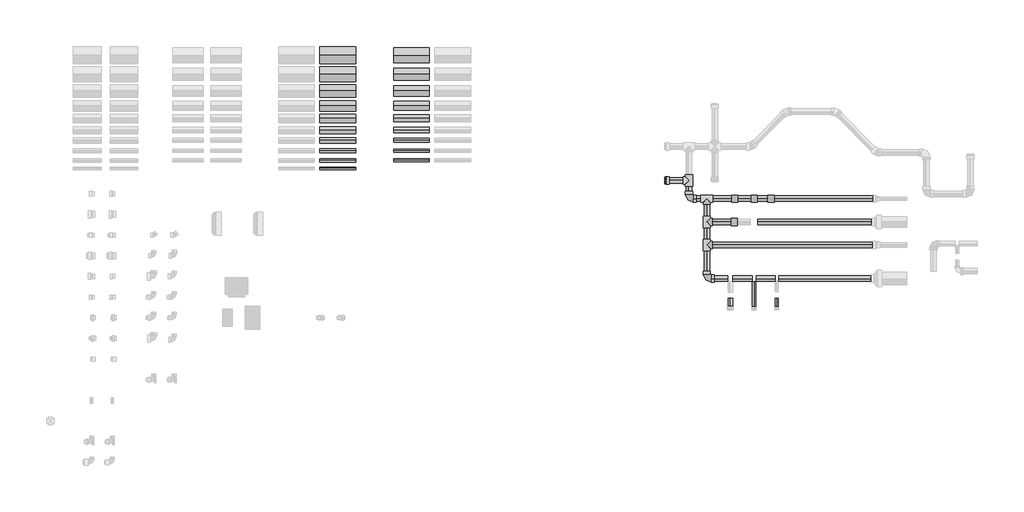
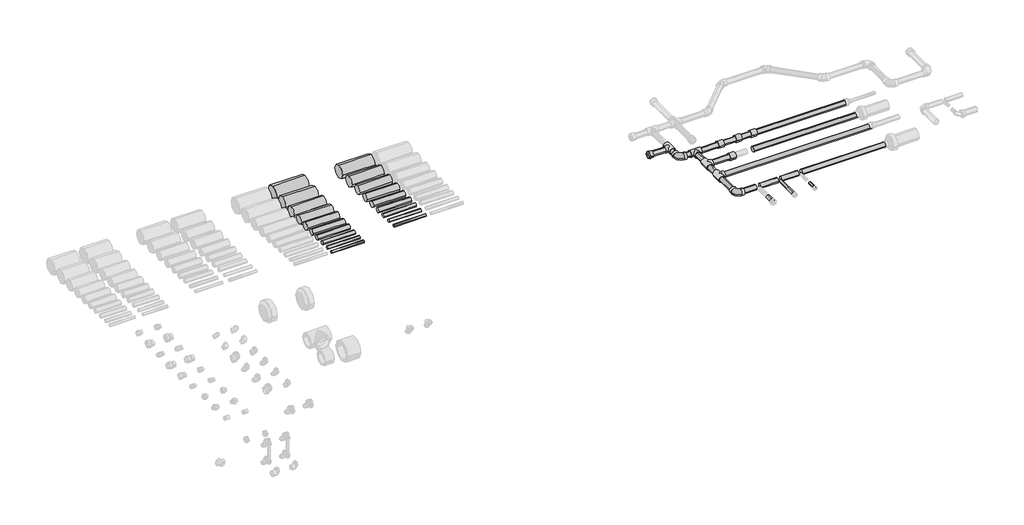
# One storey, part 3 of 4: 39 pipe segments, 11 pipe fittings.
"""IFC4 building model written with IfcOpenShell, lengths in millimetres."""

from ifc_helpers import new_model, si_unit, point, frame, frame_2d, origin, place, context, project, spatial, circle_curve, trimmed, segment, composite_curve, outline, extrude, transform, mapped, element, save
from components import pipe_fitting_ca50f0bb, pipe_fitting_64472920, pipe_fitting_0604c5e5, pipe_fitting_a1e15368

model = new_model("IFC4")

# Units and contexts
model_context = context("Model", 3, world=origin())
ifc_project = project(units=[si_unit("LENGTHUNIT", "METRE", prefix="MILLI")], contexts=[model_context])

# Site, building, storey
site = spatial("IfcSite", under=ifc_project)
building = spatial("IfcBuilding", under=site)
storey = spatial("IfcBuildingStorey", under=building, Name="Уровень 1", Elevation=0.0)

# Pipe fittings
placement = place(None, origin())
pipe_fitting_shape = pipe_fitting_ca50f0bb(model_context)
element("IfcPipeFitting", 1, ObjectType="35_Угольник полипропиленовый 90 : Белый цвет", at=placement, inside=storey, context=model_context, shape_type="MappedRepresentation", body=[
    mapped(pipe_fitting_shape, transform((1872.4011304, 3806.5754741, 0.0), x_axis=(0.0, -1.0, 0.0), y_axis=(1.0, 0.0, 0.0), z_axis=(0.0, 0.0, 1.0))),
])
element("IfcPipeFitting", 2, ObjectType="35_Угольник полипропиленовый 90 : Белый цвет", at=placement, inside=storey, context=model_context, shape_type="MappedRepresentation", body=[
    mapped(pipe_fitting_shape, transform((2002.1128555, 3226.5754741, 0.0), x_axis=(0.0, -1.0, 0.0), y_axis=(1.0, 0.0, 0.0), z_axis=(0.0, 0.0, 1.0))),
])
pipe_fitting_2_shape = pipe_fitting_64472920(model_context)
element("IfcPipeFitting", 3, ObjectType="30_Тройник полипропиленовый : Белый цвет", at=placement, inside=storey, context=model_context, shape_type="MappedRepresentation", body=[
    mapped(pipe_fitting_2_shape, transform((1872.4011304, 3939.0244311, 0.0), x_axis=(0.0, 1.0, 0.0), y_axis=(1.0, 0.0, 0.0), z_axis=(0.0, 0.0, -1.0))),
])
element("IfcPipeFitting", 4, ObjectType="30_Тройник полипропиленовый : Белый цвет", at=placement, inside=storey, context=model_context, shape_type="MappedRepresentation", body=[
    mapped(pipe_fitting_2_shape, transform((2002.1128555, 3806.5754741, 0.0), x_axis=(-1.0, 0.0, 0.0), y_axis=(0.0, 1.0, 0.0), z_axis=(0.0, 0.0, -1.0))),
])
element("IfcPipeFitting", 5, ObjectType="30_Тройник полипропиленовый : Белый цвет", at=placement, inside=storey, context=model_context, shape_type="MappedRepresentation", body=[
    mapped(pipe_fitting_2_shape, transform((2002.1128555, 3637.9359679, 0.0), x_axis=(0.0, 1.0, 0.0), y_axis=(-1.0, 0.0, 0.0), z_axis=(0.0, 0.0, 1.0))),
])
element("IfcPipeFitting", 6, ObjectType="30_Тройник полипропиленовый : Белый цвет", at=placement, inside=storey, context=model_context, shape_type="MappedRepresentation", body=[
    mapped(pipe_fitting_2_shape, transform((2002.1128555, 3471.255721, 0.0), x_axis=(0.0, 1.0, 0.0), y_axis=(-1.0, 0.0, 0.0), z_axis=(0.0, 0.0, 1.0))),
])
pipe_fitting_3_shape = pipe_fitting_0604c5e5(model_context)
element("IfcPipeFitting", 7, ObjectType="18_Муфта полипропиленовая : Белый цвет", at=placement, inside=storey, context=model_context, shape_type="MappedRepresentation", body=[
    mapped(pipe_fitting_3_shape, transform((2204.1128555, 3806.5754741, 0.0), x_axis=(1.0, 0.0, 0.0), y_axis=(0.0, 1.0, 0.0), z_axis=(0.0, 0.0, 1.0))),
])
element("IfcPipeFitting", 8, ObjectType="18_Муфта полипропиленовая : Белый цвет", at=placement, inside=storey, context=model_context, shape_type="MappedRepresentation", body=[
    mapped(pipe_fitting_3_shape, transform((2346.1128555, 3806.5754741, 0.0), x_axis=(1.0, 0.0, 0.0), y_axis=(0.0, 1.0, 0.0), z_axis=(0.0, 0.0, 1.0))),
])
element("IfcPipeFitting", 9, ObjectType="18_Муфта полипропиленовая : Белый цвет", at=placement, inside=storey, context=model_context, shape_type="MappedRepresentation", body=[
    mapped(pipe_fitting_3_shape, transform((2468.1128555, 3806.5754741, 0.0), x_axis=(1.0, 0.0, 0.0), y_axis=(0.0, 1.0, 0.0), z_axis=(0.0, 0.0, 1.0))),
])
element("IfcPipeFitting", 10, ObjectType="18_Муфта полипропиленовая : Белый цвет", at=placement, inside=storey, context=model_context, shape_type="MappedRepresentation", body=[
    mapped(pipe_fitting_3_shape, transform((2201.1128555, 3637.9359679, 0.0), x_axis=(1.0, 0.0, 0.0), y_axis=(0.0, 1.0, 0.0), z_axis=(0.0, 0.0, 1.0))),
])
pipe_fitting_4_shape = pipe_fitting_a1e15368(model_context)
element("IfcPipeFitting", 11, ObjectType="09_Заглушка : Белый цвет", at=placement, inside=storey, context=model_context, shape_type="MappedRepresentation", body=[
    mapped(pipe_fitting_4_shape, transform((1706.0709216, 3939.0244311, 0.0), x_axis=(1.0, 0.0, 0.0), y_axis=(0.0, 1.0, 0.0), z_axis=(0.0, 0.0, 1.0))),
])

# Pipe segments
element("IfcPipeSegment", 12, ObjectType="Полипропиленовые трубы, армированные стекловолокном PN20/SDR7, 4, 2 м_Белый цвет", at=placement, inside=storey, context=model_context, shape_type="SweptSolid", body=[
    extrude(outline(composite_curve([segment(trimmed(circle_curve(frame_2d((4848.4107276, 0.0)), 62.5), [point((4785.9107276, 0.0))], [point((4848.4107276, 62.5))], False, "CARTESIAN"), True, "CONTINUOUS"), segment(trimmed(circle_curve(frame_2d((4848.4107276, 0.0)), 62.5), [point((4848.4107276, 62.5))], [point((4910.9107276, 0.0))], False, "CARTESIAN"), True, "CONTINUOUS"), segment(trimmed(circle_curve(frame_2d((4848.4107276, 0.0)), 62.5), [point((4910.9107276, 0.0))], [point((4848.4107276, -62.5))], False, "CARTESIAN"), True, "CONTINUOUS"), segment(trimmed(circle_curve(frame_2d((4848.4107276, 0.0)), 62.5), [point((4848.4107276, -62.5))], [point((4785.9107276, 0.0))], False, "CARTESIAN"), True, "CONTINUOUS")], self_intersect=False)), frame((-805.4115178, 0.0, 0.0), z_axis=(1.0, 0.0, 0.0), x_axis=(0.0, 1.0, 0.0)), (0.0, 0.0, 1.0), 260.0),
])
element("IfcPipeSegment", 13, ObjectType="Полипропиленовые трубы, армированные стекловолокном PN20/SDR7, 4, 2 м_Белый цвет", at=placement, inside=storey, context=model_context, shape_type="SweptSolid", body=[
    extrude(outline(composite_curve([segment(trimmed(circle_curve(frame_2d((4709.8355043, 0.0)), 55.0), [point((4654.8355043, 0.0))], [point((4709.8355043, 55.0))], False, "CARTESIAN"), True, "CONTINUOUS"), segment(trimmed(circle_curve(frame_2d((4709.8355043, 0.0)), 55.0), [point((4709.8355043, 55.0))], [point((4764.8355043, 0.0))], False, "CARTESIAN"), True, "CONTINUOUS"), segment(trimmed(circle_curve(frame_2d((4709.8355043, 0.0)), 55.0), [point((4764.8355043, 0.0))], [point((4709.8355043, -55.0))], False, "CARTESIAN"), True, "CONTINUOUS"), segment(trimmed(circle_curve(frame_2d((4709.8355043, 0.0)), 55.0), [point((4709.8355043, -55.0))], [point((4654.8355043, 0.0))], False, "CARTESIAN"), True, "CONTINUOUS")], self_intersect=False)), frame((-805.4115178, 0.0, 0.0), z_axis=(1.0, 0.0, 0.0), x_axis=(0.0, 1.0, 0.0)), (0.0, 0.0, 1.0), 260.0),
])
element("IfcPipeSegment", 14, ObjectType="Полипропиленовые трубы, армированные стекловолокном PN20/SDR7, 4, 2 м_Белый цвет", at=placement, inside=storey, context=model_context, shape_type="SweptSolid", body=[
    extrude(outline(composite_curve([segment(trimmed(circle_curve(frame_2d((4588.2982183, 0.0)), 45.0), [point((4543.2982183, 0.0))], [point((4588.2982183, 45.0))], False, "CARTESIAN"), True, "CONTINUOUS"), segment(trimmed(circle_curve(frame_2d((4588.2982183, 0.0)), 45.0), [point((4588.2982183, 45.0))], [point((4633.2982183, 0.0))], False, "CARTESIAN"), True, "CONTINUOUS"), segment(trimmed(circle_curve(frame_2d((4588.2982183, 0.0)), 45.0), [point((4633.2982183, 0.0))], [point((4588.2982183, -45.0))], False, "CARTESIAN"), True, "CONTINUOUS"), segment(trimmed(circle_curve(frame_2d((4588.2982183, 0.0)), 45.0), [point((4588.2982183, -45.0))], [point((4543.2982183, 0.0))], False, "CARTESIAN"), True, "CONTINUOUS")], self_intersect=False)), frame((-805.4115178, 0.0, 0.0), z_axis=(1.0, 0.0, 0.0), x_axis=(0.0, 1.0, 0.0)), (0.0, 0.0, 1.0), 260.0),
])
element("IfcPipeSegment", 15, ObjectType="Полипропиленовые трубы, армированные стекловолокном PN20/SDR7, 4, 2 м_Белый цвет", at=placement, inside=storey, context=model_context, shape_type="SweptSolid", body=[
    extrude(outline(composite_curve([segment(trimmed(circle_curve(frame_2d((4480.6238499, 0.0)), 37.5), [point((4443.1238499, 0.0))], [point((4480.6238499, 37.5))], False, "CARTESIAN"), True, "CONTINUOUS"), segment(trimmed(circle_curve(frame_2d((4480.6238499, 0.0)), 37.5), [point((4480.6238499, 37.5))], [point((4518.1238499, 0.0))], False, "CARTESIAN"), True, "CONTINUOUS"), segment(trimmed(circle_curve(frame_2d((4480.6238499, 0.0)), 37.5), [point((4518.1238499, 0.0))], [point((4480.6238499, -37.5))], False, "CARTESIAN"), True, "CONTINUOUS"), segment(trimmed(circle_curve(frame_2d((4480.6238499, 0.0)), 37.5), [point((4480.6238499, -37.5))], [point((4443.1238499, 0.0))], False, "CARTESIAN"), True, "CONTINUOUS")], self_intersect=False)), frame((-805.4115178, 0.0, 0.0), z_axis=(1.0, 0.0, 0.0), x_axis=(0.0, 1.0, 0.0)), (0.0, 0.0, 1.0), 260.0),
])
element("IfcPipeSegment", 16, ObjectType="Полипропиленовые трубы, армированные стекловолокном PN20/SDR7, 4, 2 м_Белый цвет", at=placement, inside=storey, context=model_context, shape_type="SweptSolid", body=[
    extrude(outline(composite_curve([segment(trimmed(circle_curve(frame_2d((4389.5013485, 0.0)), 31.5), [point((4358.0013485, 0.0))], [point((4389.5013485, 31.5))], False, "CARTESIAN"), True, "CONTINUOUS"), segment(trimmed(circle_curve(frame_2d((4389.5013485, 0.0)), 31.5), [point((4389.5013485, 31.5))], [point((4421.0013485, 0.0))], False, "CARTESIAN"), True, "CONTINUOUS"), segment(trimmed(circle_curve(frame_2d((4389.5013485, 0.0)), 31.5), [point((4421.0013485, 0.0))], [point((4389.5013485, -31.5))], False, "CARTESIAN"), True, "CONTINUOUS"), segment(trimmed(circle_curve(frame_2d((4389.5013485, 0.0)), 31.5), [point((4389.5013485, -31.5))], [point((4358.0013485, 0.0))], False, "CARTESIAN"), True, "CONTINUOUS")], self_intersect=False)), frame((-805.4115178, 0.0, 0.0), z_axis=(1.0, 0.0, 0.0), x_axis=(0.0, 1.0, 0.0)), (0.0, 0.0, 1.0), 260.0),
])
element("IfcPipeSegment", 17, ObjectType="Полипропиленовые трубы, армированные стекловолокном PN20/SDR7, 4, 2 м_Белый цвет", at=placement, inside=storey, context=model_context, shape_type="SweptSolid", body=[
    extrude(outline(composite_curve([segment(trimmed(circle_curve(frame_2d((4303.8771946, 0.0)), 25.0), [point((4278.8771946, 0.0))], [point((4303.8771946, 25.0))], False, "CARTESIAN"), True, "CONTINUOUS"), segment(trimmed(circle_curve(frame_2d((4303.8771946, 0.0)), 25.0), [point((4303.8771946, 25.0))], [point((4328.8771946, 0.0))], False, "CARTESIAN"), True, "CONTINUOUS"), segment(trimmed(circle_curve(frame_2d((4303.8771946, 0.0)), 25.0), [point((4328.8771946, 0.0))], [point((4303.8771946, -25.0))], False, "CARTESIAN"), True, "CONTINUOUS"), segment(trimmed(circle_curve(frame_2d((4303.8771946, 0.0)), 25.0), [point((4303.8771946, -25.0))], [point((4278.8771946, 0.0))], False, "CARTESIAN"), True, "CONTINUOUS")], self_intersect=False)), frame((-805.4115178, 0.0, 0.0), z_axis=(1.0, 0.0, 0.0), x_axis=(0.0, 1.0, 0.0)), (0.0, 0.0, 1.0), 260.0),
])
element("IfcPipeSegment", 18, ObjectType="Полипропиленовые трубы, армированные стекловолокном PN20/SDR7, 4, 2 м_Белый цвет", at=placement, inside=storey, context=model_context, shape_type="SweptSolid", body=[
    extrude(outline(composite_curve([segment(trimmed(circle_curve(frame_2d((4230.5606883, 0.0)), 20.0), [point((4210.5606883, 0.0))], [point((4230.5606883, 20.0))], False, "CARTESIAN"), True, "CONTINUOUS"), segment(trimmed(circle_curve(frame_2d((4230.5606883, 0.0)), 20.0), [point((4230.5606883, 20.0))], [point((4250.5606883, 0.0))], False, "CARTESIAN"), True, "CONTINUOUS"), segment(trimmed(circle_curve(frame_2d((4230.5606883, 0.0)), 20.0), [point((4250.5606883, 0.0))], [point((4230.5606883, -20.0))], False, "CARTESIAN"), True, "CONTINUOUS"), segment(trimmed(circle_curve(frame_2d((4230.5606883, 0.0)), 20.0), [point((4230.5606883, -20.0))], [point((4210.5606883, 0.0))], False, "CARTESIAN"), True, "CONTINUOUS")], self_intersect=False)), frame((-805.4115178, 0.0, 0.0), z_axis=(1.0, 0.0, 0.0), x_axis=(0.0, 1.0, 0.0)), (0.0, 0.0, 1.0), 260.0),
])
element("IfcPipeSegment", 19, ObjectType="Полипропиленовые трубы, армированные стекловолокном PN20/SDR7, 4, 2 м_Белый цвет", at=placement, inside=storey, context=model_context, shape_type="SweptSolid", body=[
    extrude(outline(composite_curve([segment(trimmed(circle_curve(frame_2d((4154.7986605, 0.0)), 16.0), [point((4138.7986605, 0.0))], [point((4154.7986605, 16.0))], False, "CARTESIAN"), True, "CONTINUOUS"), segment(trimmed(circle_curve(frame_2d((4154.7986605, 0.0)), 16.0), [point((4154.7986605, 16.0))], [point((4170.7986605, 0.0))], False, "CARTESIAN"), True, "CONTINUOUS"), segment(trimmed(circle_curve(frame_2d((4154.7986605, 0.0)), 16.0), [point((4170.7986605, 0.0))], [point((4154.7986605, -16.0))], False, "CARTESIAN"), True, "CONTINUOUS"), segment(trimmed(circle_curve(frame_2d((4154.7986605, 0.0)), 16.0), [point((4154.7986605, -16.0))], [point((4138.7986605, 0.0))], False, "CARTESIAN"), True, "CONTINUOUS")], self_intersect=False)), frame((-805.4115178, 0.0, 0.0), z_axis=(1.0, 0.0, 0.0), x_axis=(0.0, 1.0, 0.0)), (0.0, 0.0, 1.0), 260.0),
])
element("IfcPipeSegment", 20, ObjectType="Полипропиленовые трубы, армированные стекловолокном PN20/SDR7, 4, 2 м_Белый цвет", at=placement, inside=storey, context=model_context, shape_type="SweptSolid", body=[
    extrude(outline(composite_curve([segment(trimmed(circle_curve(frame_2d((4085.0159711, 0.0)), 12.5), [point((4072.5159711, 0.0))], [point((4085.0159711, 12.5))], False, "CARTESIAN"), True, "CONTINUOUS"), segment(trimmed(circle_curve(frame_2d((4085.0159711, 0.0)), 12.5), [point((4085.0159711, 12.5))], [point((4097.5159711, 0.0))], False, "CARTESIAN"), True, "CONTINUOUS"), segment(trimmed(circle_curve(frame_2d((4085.0159711, 0.0)), 12.5), [point((4097.5159711, 0.0))], [point((4085.0159711, -12.5))], False, "CARTESIAN"), True, "CONTINUOUS"), segment(trimmed(circle_curve(frame_2d((4085.0159711, 0.0)), 12.5), [point((4085.0159711, -12.5))], [point((4072.5159711, 0.0))], False, "CARTESIAN"), True, "CONTINUOUS")], self_intersect=False)), frame((-805.4115178, 0.0, 0.0), z_axis=(1.0, 0.0, 0.0), x_axis=(0.0, 1.0, 0.0)), (0.0, 0.0, 1.0), 260.0),
])
element("IfcPipeSegment", 21, ObjectType="Полипропиленовые трубы, армированные стекловолокном PN20/SDR7, 4, 2 м_Белый цвет", at=placement, inside=storey, context=model_context, shape_type="SweptSolid", body=[
    extrude(outline(composite_curve([segment(trimmed(circle_curve(frame_2d((4025.8339977, 0.0)), 10.0), [point((4015.8339977, 0.0))], [point((4025.8339977, 10.0))], False, "CARTESIAN"), True, "CONTINUOUS"), segment(trimmed(circle_curve(frame_2d((4025.8339977, 0.0)), 10.0), [point((4025.8339977, 10.0))], [point((4035.8339977, 0.0))], False, "CARTESIAN"), True, "CONTINUOUS"), segment(trimmed(circle_curve(frame_2d((4025.8339977, 0.0)), 10.0), [point((4035.8339977, 0.0))], [point((4025.8339977, -10.0))], False, "CARTESIAN"), True, "CONTINUOUS"), segment(trimmed(circle_curve(frame_2d((4025.8339977, 0.0)), 10.0), [point((4025.8339977, -10.0))], [point((4015.8339977, 0.0))], False, "CARTESIAN"), True, "CONTINUOUS")], self_intersect=False)), frame((-805.4115178, 0.0, 0.0), z_axis=(1.0, 0.0, 0.0), x_axis=(0.0, 1.0, 0.0)), (0.0, 0.0, 1.0), 260.0),
])
element("IfcPipeSegment", 22, ObjectType="Полипропиленовые трубы, армированные стекловолокном PN25/SDR6, 2 м_Серый цвет", at=placement, inside=storey, context=model_context, shape_type="SweptSolid", body=[
    extrude(outline(composite_curve([segment(trimmed(circle_curve(frame_2d((4848.4107276, 0.0)), 55.0), [point((4793.4107276, 0.0))], [point((4848.4107276, 55.0))], False, "CARTESIAN"), True, "CONTINUOUS"), segment(trimmed(circle_curve(frame_2d((4848.4107276, 0.0)), 55.0), [point((4848.4107276, 55.0))], [point((4903.4107276, 0.0))], False, "CARTESIAN"), True, "CONTINUOUS"), segment(trimmed(circle_curve(frame_2d((4848.4107276, 0.0)), 55.0), [point((4903.4107276, 0.0))], [point((4848.4107276, -55.0))], False, "CARTESIAN"), True, "CONTINUOUS"), segment(trimmed(circle_curve(frame_2d((4848.4107276, 0.0)), 55.0), [point((4848.4107276, -55.0))], [point((4793.4107276, 0.0))], False, "CARTESIAN"), True, "CONTINUOUS")], self_intersect=False)), frame((-270.5750243, 0.0, 0.0), z_axis=(1.0, 0.0, 0.0), x_axis=(0.0, 1.0, 0.0)), (0.0, 0.0, 1.0), 260.0),
])
element("IfcPipeSegment", 23, ObjectType="Полипропиленовые трубы, армированные стекловолокном PN25/SDR6, 2 м_Серый цвет", at=placement, inside=storey, context=model_context, shape_type="SweptSolid", body=[
    extrude(outline(composite_curve([segment(trimmed(circle_curve(frame_2d((4709.8355043, 0.0)), 45.0), [point((4664.8355043, 0.0))], [point((4709.8355043, 45.0))], False, "CARTESIAN"), True, "CONTINUOUS"), segment(trimmed(circle_curve(frame_2d((4709.8355043, 0.0)), 45.0), [point((4709.8355043, 45.0))], [point((4754.8355043, 0.0))], False, "CARTESIAN"), True, "CONTINUOUS"), segment(trimmed(circle_curve(frame_2d((4709.8355043, 0.0)), 45.0), [point((4754.8355043, 0.0))], [point((4709.8355043, -45.0))], False, "CARTESIAN"), True, "CONTINUOUS"), segment(trimmed(circle_curve(frame_2d((4709.8355043, 0.0)), 45.0), [point((4709.8355043, -45.0))], [point((4664.8355043, 0.0))], False, "CARTESIAN"), True, "CONTINUOUS")], self_intersect=False)), frame((-270.5750243, 0.0, 0.0), z_axis=(1.0, 0.0, 0.0), x_axis=(0.0, 1.0, 0.0)), (0.0, 0.0, 1.0), 260.0),
])
element("IfcPipeSegment", 24, ObjectType="Полипропиленовые трубы, армированные стекловолокном PN25/SDR6, 2 м_Серый цвет", at=placement, inside=storey, context=model_context, shape_type="SweptSolid", body=[
    extrude(outline(composite_curve([segment(trimmed(circle_curve(frame_2d((4588.2982183, 0.0)), 37.5), [point((4550.7982183, 0.0))], [point((4588.2982183, 37.5))], False, "CARTESIAN"), True, "CONTINUOUS"), segment(trimmed(circle_curve(frame_2d((4588.2982183, 0.0)), 37.5), [point((4588.2982183, 37.5))], [point((4625.7982183, 0.0))], False, "CARTESIAN"), True, "CONTINUOUS"), segment(trimmed(circle_curve(frame_2d((4588.2982183, 0.0)), 37.5), [point((4625.7982183, 0.0))], [point((4588.2982183, -37.5))], False, "CARTESIAN"), True, "CONTINUOUS"), segment(trimmed(circle_curve(frame_2d((4588.2982183, 0.0)), 37.5), [point((4588.2982183, -37.5))], [point((4550.7982183, 0.0))], False, "CARTESIAN"), True, "CONTINUOUS")], self_intersect=False)), frame((-270.5750243, 0.0, 0.0), z_axis=(1.0, 0.0, 0.0), x_axis=(0.0, 1.0, 0.0)), (0.0, 0.0, 1.0), 260.0),
])
element("IfcPipeSegment", 25, ObjectType="Полипропиленовые трубы, армированные стекловолокном PN25/SDR6, 2 м_Серый цвет", at=placement, inside=storey, context=model_context, shape_type="SweptSolid", body=[
    extrude(outline(composite_curve([segment(trimmed(circle_curve(frame_2d((4480.6238499, 0.0)), 31.5), [point((4449.1238499, 0.0))], [point((4480.6238499, 31.5))], False, "CARTESIAN"), True, "CONTINUOUS"), segment(trimmed(circle_curve(frame_2d((4480.6238499, 0.0)), 31.5), [point((4480.6238499, 31.5))], [point((4512.1238499, 0.0))], False, "CARTESIAN"), True, "CONTINUOUS"), segment(trimmed(circle_curve(frame_2d((4480.6238499, 0.0)), 31.5), [point((4512.1238499, 0.0))], [point((4480.6238499, -31.5))], False, "CARTESIAN"), True, "CONTINUOUS"), segment(trimmed(circle_curve(frame_2d((4480.6238499, 0.0)), 31.5), [point((4480.6238499, -31.5))], [point((4449.1238499, 0.0))], False, "CARTESIAN"), True, "CONTINUOUS")], self_intersect=False)), frame((-270.5750243, 0.0, 0.0), z_axis=(1.0, 0.0, 0.0), x_axis=(0.0, 1.0, 0.0)), (0.0, 0.0, 1.0), 260.0),
])
element("IfcPipeSegment", 26, ObjectType="Полипропиленовые трубы, армированные стекловолокном PN25/SDR6, 2 м_Серый цвет", at=placement, inside=storey, context=model_context, shape_type="SweptSolid", body=[
    extrude(outline(composite_curve([segment(trimmed(circle_curve(frame_2d((4389.5013485, 0.0)), 25.0), [point((4364.5013485, 0.0))], [point((4389.5013485, 25.0))], False, "CARTESIAN"), True, "CONTINUOUS"), segment(trimmed(circle_curve(frame_2d((4389.5013485, 0.0)), 25.0), [point((4389.5013485, 25.0))], [point((4414.5013485, 0.0))], False, "CARTESIAN"), True, "CONTINUOUS"), segment(trimmed(circle_curve(frame_2d((4389.5013485, 0.0)), 25.0), [point((4414.5013485, 0.0))], [point((4389.5013485, -25.0))], False, "CARTESIAN"), True, "CONTINUOUS"), segment(trimmed(circle_curve(frame_2d((4389.5013485, 0.0)), 25.0), [point((4389.5013485, -25.0))], [point((4364.5013485, 0.0))], False, "CARTESIAN"), True, "CONTINUOUS")], self_intersect=False)), frame((-270.5750243, 0.0, 0.0), z_axis=(1.0, 0.0, 0.0), x_axis=(0.0, 1.0, 0.0)), (0.0, 0.0, 1.0), 260.0),
])
element("IfcPipeSegment", 27, ObjectType="Полипропиленовые трубы, армированные стекловолокном PN25/SDR6, 2 м_Серый цвет", at=placement, inside=storey, context=model_context, shape_type="SweptSolid", body=[
    extrude(outline(composite_curve([segment(trimmed(circle_curve(frame_2d((4303.8771946, 0.0)), 20.0), [point((4283.8771946, 0.0))], [point((4303.8771946, 20.0))], False, "CARTESIAN"), True, "CONTINUOUS"), segment(trimmed(circle_curve(frame_2d((4303.8771946, 0.0)), 20.0), [point((4303.8771946, 20.0))], [point((4323.8771946, 0.0))], False, "CARTESIAN"), True, "CONTINUOUS"), segment(trimmed(circle_curve(frame_2d((4303.8771946, 0.0)), 20.0), [point((4323.8771946, 0.0))], [point((4303.8771946, -20.0))], False, "CARTESIAN"), True, "CONTINUOUS"), segment(trimmed(circle_curve(frame_2d((4303.8771946, 0.0)), 20.0), [point((4303.8771946, -20.0))], [point((4283.8771946, 0.0))], False, "CARTESIAN"), True, "CONTINUOUS")], self_intersect=False)), frame((-270.5750243, 0.0, 0.0), z_axis=(1.0, 0.0, 0.0), x_axis=(0.0, 1.0, 0.0)), (0.0, 0.0, 1.0), 260.0),
])
element("IfcPipeSegment", 28, ObjectType="Полипропиленовые трубы, армированные стекловолокном PN25/SDR6, 2 м_Серый цвет", at=placement, inside=storey, context=model_context, shape_type="SweptSolid", body=[
    extrude(outline(composite_curve([segment(trimmed(circle_curve(frame_2d((4230.5606883, 0.0)), 16.0), [point((4214.5606883, 0.0))], [point((4230.5606883, 16.0))], False, "CARTESIAN"), True, "CONTINUOUS"), segment(trimmed(circle_curve(frame_2d((4230.5606883, 0.0)), 16.0), [point((4230.5606883, 16.0))], [point((4246.5606883, 0.0))], False, "CARTESIAN"), True, "CONTINUOUS"), segment(trimmed(circle_curve(frame_2d((4230.5606883, 0.0)), 16.0), [point((4246.5606883, 0.0))], [point((4230.5606883, -16.0))], False, "CARTESIAN"), True, "CONTINUOUS"), segment(trimmed(circle_curve(frame_2d((4230.5606883, 0.0)), 16.0), [point((4230.5606883, -16.0))], [point((4214.5606883, 0.0))], False, "CARTESIAN"), True, "CONTINUOUS")], self_intersect=False)), frame((-270.5750243, 0.0, 0.0), z_axis=(1.0, 0.0, 0.0), x_axis=(0.0, 1.0, 0.0)), (0.0, 0.0, 1.0), 260.0),
])
element("IfcPipeSegment", 29, ObjectType="Полипропиленовые трубы, армированные стекловолокном PN25/SDR6, 2 м_Серый цвет", at=placement, inside=storey, context=model_context, shape_type="SweptSolid", body=[
    extrude(outline(composite_curve([segment(trimmed(circle_curve(frame_2d((4154.7986605, 0.0)), 12.5), [point((4142.2986605, 0.0))], [point((4154.7986605, 12.5))], False, "CARTESIAN"), True, "CONTINUOUS"), segment(trimmed(circle_curve(frame_2d((4154.7986605, 0.0)), 12.5), [point((4154.7986605, 12.5))], [point((4167.2986605, 0.0))], False, "CARTESIAN"), True, "CONTINUOUS"), segment(trimmed(circle_curve(frame_2d((4154.7986605, 0.0)), 12.5), [point((4167.2986605, 0.0))], [point((4154.7986605, -12.5))], False, "CARTESIAN"), True, "CONTINUOUS"), segment(trimmed(circle_curve(frame_2d((4154.7986605, 0.0)), 12.5), [point((4154.7986605, -12.5))], [point((4142.2986605, 0.0))], False, "CARTESIAN"), True, "CONTINUOUS")], self_intersect=False)), frame((-270.5750243, 0.0, 0.0), z_axis=(1.0, 0.0, 0.0), x_axis=(0.0, 1.0, 0.0)), (0.0, 0.0, 1.0), 260.0),
])
element("IfcPipeSegment", 30, ObjectType="Полипропиленовые трубы, армированные стекловолокном PN25/SDR6, 2 м_Серый цвет", at=placement, inside=storey, context=model_context, shape_type="SweptSolid", body=[
    extrude(outline(composite_curve([segment(trimmed(circle_curve(frame_2d((4085.0159711, 0.0)), 10.0), [point((4075.0159711, 0.0))], [point((4085.0159711, 10.0))], False, "CARTESIAN"), True, "CONTINUOUS"), segment(trimmed(circle_curve(frame_2d((4085.0159711, 0.0)), 10.0), [point((4085.0159711, 10.0))], [point((4095.0159711, 0.0))], False, "CARTESIAN"), True, "CONTINUOUS"), segment(trimmed(circle_curve(frame_2d((4085.0159711, 0.0)), 10.0), [point((4095.0159711, 0.0))], [point((4085.0159711, -10.0))], False, "CARTESIAN"), True, "CONTINUOUS"), segment(trimmed(circle_curve(frame_2d((4085.0159711, 0.0)), 10.0), [point((4085.0159711, -10.0))], [point((4075.0159711, 0.0))], False, "CARTESIAN"), True, "CONTINUOUS")], self_intersect=False)), frame((-270.5750243, 0.0, 0.0), z_axis=(1.0, 0.0, 0.0), x_axis=(0.0, 1.0, 0.0)), (0.0, 0.0, 1.0), 260.0),
])
element("IfcPipeSegment", 31, ObjectType="PN10/SDR11, 4 м_Белый цвет", at=placement, inside=storey, context=model_context, shape_type="SweptSolid", body=[
    extrude(outline(composite_curve([segment(trimmed(circle_curve(frame_2d((0.0, 1872.4011304)), 20.0), [point((0.0, 1852.4011304))], [point((-20.0, 1872.4011304))], False, "CARTESIAN"), True, "CONTINUOUS"), segment(trimmed(circle_curve(frame_2d((0.0, 1872.4011304)), 20.0), [point((-20.0, 1872.4011304))], [point((0.0, 1892.4011304))], False, "CARTESIAN"), True, "CONTINUOUS"), segment(trimmed(circle_curve(frame_2d((0.0, 1872.4011304)), 20.0), [point((0.0, 1892.4011304))], [point((20.0, 1872.4011304))], False, "CARTESIAN"), True, "CONTINUOUS"), segment(trimmed(circle_curve(frame_2d((0.0, 1872.4011304)), 20.0), [point((20.0, 1872.4011304))], [point((0.0, 1852.4011304))], False, "CARTESIAN"), True, "CONTINUOUS")], self_intersect=False)), frame((0.0, 3839.4254741, 0.0), z_axis=(0.0, 1.0, 0.0), x_axis=(0.0, 0.0, 1.0)), (0.0, 0.0, 1.0), 77.598957),
])
element("IfcPipeSegment", 32, ObjectType="PN10/SDR11, 4 м_Белый цвет", at=placement, inside=storey, context=model_context, shape_type="SweptSolid", body=[
    extrude(outline(composite_curve([segment(trimmed(circle_curve(frame_2d((3939.0244311, 0.0)), 20.0), [point((3959.0244311, 0.0))], [point((3939.0244311, -20.0))], False, "CARTESIAN"), True, "CONTINUOUS"), segment(trimmed(circle_curve(frame_2d((3939.0244311, 0.0)), 20.0), [point((3939.0244311, -20.0))], [point((3919.0244311, 0.0))], False, "CARTESIAN"), True, "CONTINUOUS"), segment(trimmed(circle_curve(frame_2d((3939.0244311, 0.0)), 20.0), [point((3919.0244311, 0.0))], [point((3939.0244311, 20.0))], False, "CARTESIAN"), True, "CONTINUOUS"), segment(trimmed(circle_curve(frame_2d((3939.0244311, 0.0)), 20.0), [point((3939.0244311, 20.0))], [point((3959.0244311, 0.0))], False, "CARTESIAN"), True, "CONTINUOUS")], self_intersect=False)), frame((1706.0709216, 0.0, 0.0), z_axis=(1.0, 0.0, 0.0), x_axis=(0.0, 1.0, 0.0)), (0.0, 0.0, 1.0), 147.3302087),
])
element("IfcPipeSegment", 33, ObjectType="PN10/SDR11, 4 м_Белый цвет", at=placement, inside=storey, context=model_context, shape_type="SweptSolid", body=[
    extrude(outline(composite_curve([segment(trimmed(circle_curve(frame_2d((3806.5754741, 0.0)), 20.0), [point((3786.5754741, 0.0))], [point((3806.5754741, 20.0))], False, "CARTESIAN"), True, "CONTINUOUS"), segment(trimmed(circle_curve(frame_2d((3806.5754741, 0.0)), 20.0), [point((3806.5754741, 20.0))], [point((3826.5754741, 0.0))], False, "CARTESIAN"), True, "CONTINUOUS"), segment(trimmed(circle_curve(frame_2d((3806.5754741, 0.0)), 20.0), [point((3826.5754741, 0.0))], [point((3806.5754741, -20.0))], False, "CARTESIAN"), True, "CONTINUOUS"), segment(trimmed(circle_curve(frame_2d((3806.5754741, 0.0)), 20.0), [point((3806.5754741, -20.0))], [point((3786.5754741, 0.0))], False, "CARTESIAN"), True, "CONTINUOUS")], self_intersect=False)), frame((2470.1128555, 0.0, 0.0), z_axis=(1.0, 0.0, 0.0), x_axis=(0.0, 1.0, 0.0)), (0.0, 0.0, 1.0), 759.2882749),
])
element("IfcPipeSegment", 34, ObjectType="PN10/SDR11, 4 м_Белый цвет", at=placement, inside=storey, context=model_context, shape_type="SweptSolid", body=[
    extrude(outline(composite_curve([segment(trimmed(circle_curve(frame_2d((3806.5754741, 0.0)), 20.0), [point((3786.5754741, 0.0))], [point((3806.5754741, 20.0))], False, "CARTESIAN"), True, "CONTINUOUS"), segment(trimmed(circle_curve(frame_2d((3806.5754741, 0.0)), 20.0), [point((3806.5754741, 20.0))], [point((3826.5754741, 0.0))], False, "CARTESIAN"), True, "CONTINUOUS"), segment(trimmed(circle_curve(frame_2d((3806.5754741, 0.0)), 20.0), [point((3826.5754741, 0.0))], [point((3806.5754741, -20.0))], False, "CARTESIAN"), True, "CONTINUOUS"), segment(trimmed(circle_curve(frame_2d((3806.5754741, 0.0)), 20.0), [point((3806.5754741, -20.0))], [point((3786.5754741, 0.0))], False, "CARTESIAN"), True, "CONTINUOUS")], self_intersect=False)), frame((1905.2511304, 0.0, 0.0), z_axis=(1.0, 0.0, 0.0), x_axis=(0.0, 1.0, 0.0)), (0.0, 0.0, 1.0), 74.8617251),
])
element("IfcPipeSegment", 35, ObjectType="PN10/SDR11, 4 м_Белый цвет", at=placement, inside=storey, context=model_context, shape_type="SweptSolid", body=[
    extrude(outline(composite_curve([segment(trimmed(circle_curve(frame_2d((3637.9359679, 0.0)), 20.0), [point((3617.9359679, 0.0))], [point((3637.9359679, 20.0))], False, "CARTESIAN"), True, "CONTINUOUS"), segment(trimmed(circle_curve(frame_2d((3637.9359679, 0.0)), 20.0), [point((3637.9359679, 20.0))], [point((3657.9359679, 0.0))], False, "CARTESIAN"), True, "CONTINUOUS"), segment(trimmed(circle_curve(frame_2d((3637.9359679, 0.0)), 20.0), [point((3657.9359679, 0.0))], [point((3637.9359679, -20.0))], False, "CARTESIAN"), True, "CONTINUOUS"), segment(trimmed(circle_curve(frame_2d((3637.9359679, 0.0)), 20.0), [point((3637.9359679, -20.0))], [point((3617.9359679, 0.0))], False, "CARTESIAN"), True, "CONTINUOUS")], self_intersect=False)), frame((2370.3628555, 0.0, 0.0), z_axis=(1.0, 0.0, 0.0), x_axis=(0.0, 1.0, 0.0)), (0.0, 0.0, 1.0), 848.0382749),
])
element("IfcPipeSegment", 36, ObjectType="PN10/SDR11, 4 м_Белый цвет", at=placement, inside=storey, context=model_context, shape_type="SweptSolid", body=[
    extrude(outline(composite_curve([segment(trimmed(circle_curve(frame_2d((0.0, 2002.1128555)), 20.0), [point((0.0, 1982.1128555))], [point((-20.0, 2002.1128555))], False, "CARTESIAN"), True, "CONTINUOUS"), segment(trimmed(circle_curve(frame_2d((0.0, 2002.1128555)), 20.0), [point((-20.0, 2002.1128555))], [point((0.0, 2022.1128555))], False, "CARTESIAN"), True, "CONTINUOUS"), segment(trimmed(circle_curve(frame_2d((0.0, 2002.1128555)), 20.0), [point((0.0, 2022.1128555))], [point((20.0, 2002.1128555))], False, "CARTESIAN"), True, "CONTINUOUS"), segment(trimmed(circle_curve(frame_2d((0.0, 2002.1128555)), 20.0), [point((20.0, 2002.1128555))], [point((0.0, 1982.1128555))], False, "CARTESIAN"), True, "CONTINUOUS")], self_intersect=False)), frame((0.0, 3659.9359679, 0.0), z_axis=(0.0, 1.0, 0.0), x_axis=(0.0, 0.0, 1.0)), (0.0, 0.0, 1.0), 127.6395062),
])
element("IfcPipeSegment", 37, ObjectType="PN10/SDR11, 4 м_Белый цвет", at=placement, inside=storey, context=model_context, shape_type="SweptSolid", body=[
    extrude(outline(composite_curve([segment(trimmed(circle_curve(frame_2d((3471.255721, 0.0)), 20.0), [point((3451.255721, 0.0))], [point((3471.255721, 20.0))], False, "CARTESIAN"), True, "CONTINUOUS"), segment(trimmed(circle_curve(frame_2d((3471.255721, 0.0)), 20.0), [point((3471.255721, 20.0))], [point((3491.255721, 0.0))], False, "CARTESIAN"), True, "CONTINUOUS"), segment(trimmed(circle_curve(frame_2d((3471.255721, 0.0)), 20.0), [point((3491.255721, 0.0))], [point((3471.255721, -20.0))], False, "CARTESIAN"), True, "CONTINUOUS"), segment(trimmed(circle_curve(frame_2d((3471.255721, 0.0)), 20.0), [point((3471.255721, -20.0))], [point((3451.255721, 0.0))], False, "CARTESIAN"), True, "CONTINUOUS")], self_intersect=False)), frame((2021.1128555, 0.0, 0.0), z_axis=(1.0, 0.0, 0.0), x_axis=(0.0, 1.0, 0.0)), (0.0, 0.0, 1.0), 1207.2882749),
])
element("IfcPipeSegment", 38, ObjectType="PN10/SDR11, 4 м_Белый цвет", at=placement, inside=storey, context=model_context, shape_type="SweptSolid", body=[
    extrude(outline(composite_curve([segment(trimmed(circle_curve(frame_2d((0.0, 2002.1128555)), 20.0), [point((0.0, 1982.1128555))], [point((-20.0, 2002.1128555))], False, "CARTESIAN"), True, "CONTINUOUS"), segment(trimmed(circle_curve(frame_2d((0.0, 2002.1128555)), 20.0), [point((-20.0, 2002.1128555))], [point((0.0, 2022.1128555))], False, "CARTESIAN"), True, "CONTINUOUS"), segment(trimmed(circle_curve(frame_2d((0.0, 2002.1128555)), 20.0), [point((0.0, 2022.1128555))], [point((20.0, 2002.1128555))], False, "CARTESIAN"), True, "CONTINUOUS"), segment(trimmed(circle_curve(frame_2d((0.0, 2002.1128555)), 20.0), [point((20.0, 2002.1128555))], [point((0.0, 1982.1128555))], False, "CARTESIAN"), True, "CONTINUOUS")], self_intersect=False)), frame((0.0, 3493.255721, 0.0), z_axis=(0.0, 1.0, 0.0), x_axis=(0.0, 0.0, 1.0)), (0.0, 0.0, 1.0), 122.6802469),
])
element("IfcPipeSegment", 39, ObjectType="PN10/SDR11, 4 м_Белый цвет", at=placement, inside=storey, context=model_context, shape_type="SweptSolid", body=[
    extrude(outline(composite_curve([segment(trimmed(circle_curve(frame_2d((0.0, 2002.1128555)), 20.0), [point((0.0, 1982.1128555))], [point((-20.0, 2002.1128555))], False, "CARTESIAN"), True, "CONTINUOUS"), segment(trimmed(circle_curve(frame_2d((0.0, 2002.1128555)), 20.0), [point((-20.0, 2002.1128555))], [point((0.0, 2022.1128555))], False, "CARTESIAN"), True, "CONTINUOUS"), segment(trimmed(circle_curve(frame_2d((0.0, 2002.1128555)), 20.0), [point((0.0, 2022.1128555))], [point((20.0, 2002.1128555))], False, "CARTESIAN"), True, "CONTINUOUS"), segment(trimmed(circle_curve(frame_2d((0.0, 2002.1128555)), 20.0), [point((20.0, 2002.1128555))], [point((0.0, 1982.1128555))], False, "CARTESIAN"), True, "CONTINUOUS")], self_intersect=False)), frame((0.0, 3259.4254741, 0.0), z_axis=(0.0, 1.0, 0.0), x_axis=(0.0, 0.0, 1.0)), (0.0, 0.0, 1.0), 189.8302469),
])
element("IfcPipeSegment", 40, ObjectType="PN10/SDR11, 4 м_Белый цвет", at=placement, inside=storey, context=model_context, shape_type="SweptSolid", body=[
    extrude(outline(composite_curve([segment(trimmed(circle_curve(frame_2d((3226.5754741, 0.0)), 20.0), [point((3206.5754741, 0.0))], [point((3226.5754741, 20.0))], False, "CARTESIAN"), True, "CONTINUOUS"), segment(trimmed(circle_curve(frame_2d((3226.5754741, 0.0)), 20.0), [point((3226.5754741, 20.0))], [point((3246.5754741, 0.0))], False, "CARTESIAN"), True, "CONTINUOUS"), segment(trimmed(circle_curve(frame_2d((3226.5754741, 0.0)), 20.0), [point((3246.5754741, 0.0))], [point((3226.5754741, -20.0))], False, "CARTESIAN"), True, "CONTINUOUS"), segment(trimmed(circle_curve(frame_2d((3226.5754741, 0.0)), 20.0), [point((3226.5754741, -20.0))], [point((3206.5754741, 0.0))], False, "CARTESIAN"), True, "CONTINUOUS")], self_intersect=False)), frame((2523.2630305, 0.0, 0.0), z_axis=(1.0, 0.0, 0.0), x_axis=(0.0, 1.0, 0.0)), (0.0, 0.0, 1.0), 691.1380999),
])
element("IfcPipeSegment", 41, ObjectType="PN10/SDR11, 4 м_Белый цвет", at=placement, inside=storey, context=model_context, shape_type="SweptSolid", body=[
    extrude(outline(composite_curve([segment(trimmed(circle_curve(frame_2d((3806.5754741, 0.0)), 20.0), [point((3786.5754741, 0.0))], [point((3806.5754741, 20.0))], False, "CARTESIAN"), True, "CONTINUOUS"), segment(trimmed(circle_curve(frame_2d((3806.5754741, 0.0)), 20.0), [point((3806.5754741, 20.0))], [point((3826.5754741, 0.0))], False, "CARTESIAN"), True, "CONTINUOUS"), segment(trimmed(circle_curve(frame_2d((3806.5754741, 0.0)), 20.0), [point((3826.5754741, 0.0))], [point((3806.5754741, -20.0))], False, "CARTESIAN"), True, "CONTINUOUS"), segment(trimmed(circle_curve(frame_2d((3806.5754741, 0.0)), 20.0), [point((3806.5754741, -20.0))], [point((3786.5754741, 0.0))], False, "CARTESIAN"), True, "CONTINUOUS")], self_intersect=False)), frame((2024.1128555, 0.0, 0.0), z_axis=(1.0, 0.0, 0.0), x_axis=(0.0, 1.0, 0.0)), (0.0, 0.0, 1.0), 178.0),
])
element("IfcPipeSegment", 42, ObjectType="PN10/SDR11, 4 м_Белый цвет", at=placement, inside=storey, context=model_context, shape_type="SweptSolid", body=[
    extrude(outline(composite_curve([segment(trimmed(circle_curve(frame_2d((3806.5754741, 0.0)), 20.0), [point((3786.5754741, 0.0))], [point((3806.5754741, 20.0))], False, "CARTESIAN"), True, "CONTINUOUS"), segment(trimmed(circle_curve(frame_2d((3806.5754741, 0.0)), 20.0), [point((3806.5754741, 20.0))], [point((3826.5754741, 0.0))], False, "CARTESIAN"), True, "CONTINUOUS"), segment(trimmed(circle_curve(frame_2d((3806.5754741, 0.0)), 20.0), [point((3826.5754741, 0.0))], [point((3806.5754741, -20.0))], False, "CARTESIAN"), True, "CONTINUOUS"), segment(trimmed(circle_curve(frame_2d((3806.5754741, 0.0)), 20.0), [point((3806.5754741, -20.0))], [point((3786.5754741, 0.0))], False, "CARTESIAN"), True, "CONTINUOUS")], self_intersect=False)), frame((2206.1128555, 0.0, 0.0), z_axis=(1.0, 0.0, 0.0), x_axis=(0.0, 1.0, 0.0)), (0.0, 0.0, 1.0), 138.0),
])
element("IfcPipeSegment", 43, ObjectType="PN10/SDR11, 4 м_Белый цвет", at=placement, inside=storey, context=model_context, shape_type="SweptSolid", body=[
    extrude(outline(composite_curve([segment(trimmed(circle_curve(frame_2d((3806.5754741, 0.0)), 20.0), [point((3786.5754741, 0.0))], [point((3806.5754741, 20.0))], False, "CARTESIAN"), True, "CONTINUOUS"), segment(trimmed(circle_curve(frame_2d((3806.5754741, 0.0)), 20.0), [point((3806.5754741, 20.0))], [point((3826.5754741, 0.0))], False, "CARTESIAN"), True, "CONTINUOUS"), segment(trimmed(circle_curve(frame_2d((3806.5754741, 0.0)), 20.0), [point((3826.5754741, 0.0))], [point((3806.5754741, -20.0))], False, "CARTESIAN"), True, "CONTINUOUS"), segment(trimmed(circle_curve(frame_2d((3806.5754741, 0.0)), 20.0), [point((3806.5754741, -20.0))], [point((3786.5754741, 0.0))], False, "CARTESIAN"), True, "CONTINUOUS")], self_intersect=False)), frame((2348.1128555, 0.0, 0.0), z_axis=(1.0, 0.0, 0.0), x_axis=(0.0, 1.0, 0.0)), (0.0, 0.0, 1.0), 118.0),
])
element("IfcPipeSegment", 44, ObjectType="PN10/SDR11, 4 м_Белый цвет", at=placement, inside=storey, context=model_context, shape_type="SweptSolid", body=[
    extrude(outline(composite_curve([segment(trimmed(circle_curve(frame_2d((3637.9359679, 0.0)), 20.0), [point((3617.9359679, 0.0))], [point((3637.9359679, 20.0))], False, "CARTESIAN"), True, "CONTINUOUS"), segment(trimmed(circle_curve(frame_2d((3637.9359679, 0.0)), 20.0), [point((3637.9359679, 20.0))], [point((3657.9359679, 0.0))], False, "CARTESIAN"), True, "CONTINUOUS"), segment(trimmed(circle_curve(frame_2d((3637.9359679, 0.0)), 20.0), [point((3657.9359679, 0.0))], [point((3637.9359679, -20.0))], False, "CARTESIAN"), True, "CONTINUOUS"), segment(trimmed(circle_curve(frame_2d((3637.9359679, 0.0)), 20.0), [point((3637.9359679, -20.0))], [point((3617.9359679, 0.0))], False, "CARTESIAN"), True, "CONTINUOUS")], self_intersect=False)), frame((2021.1128555, 0.0, 0.0), z_axis=(1.0, 0.0, 0.0), x_axis=(0.0, 1.0, 0.0)), (0.0, 0.0, 1.0), 178.0),
])
element("IfcPipeSegment", 45, ObjectType="PN10/SDR11, 4 м_Белый цвет", at=placement, inside=storey, context=model_context, shape_type="SweptSolid", body=[
    extrude(outline(composite_curve([segment(trimmed(circle_curve(frame_2d((0.0, 2173.4672449)), 16.0), [point((0.0, 2157.4672449))], [point((-16.0, 2173.4672449))], False, "CARTESIAN"), True, "CONTINUOUS"), segment(trimmed(circle_curve(frame_2d((0.0, 2173.4672449)), 16.0), [point((-16.0, 2173.4672449))], [point((0.0, 2189.4672449))], False, "CARTESIAN"), True, "CONTINUOUS"), segment(trimmed(circle_curve(frame_2d((0.0, 2173.4672449)), 16.0), [point((0.0, 2189.4672449))], [point((16.0, 2173.4672449))], False, "CARTESIAN"), True, "CONTINUOUS"), segment(trimmed(circle_curve(frame_2d((0.0, 2173.4672449)), 16.0), [point((16.0, 2173.4672449))], [point((0.0, 2157.4672449))], False, "CARTESIAN"), True, "CONTINUOUS")], self_intersect=False)), frame((0.0, 3006.5754741, 0.0), z_axis=(0.0, 1.0, 0.0), x_axis=(0.0, 0.0, 1.0)), (0.0, 0.0, 1.0), 77.25),
])
element("IfcPipeSegment", 46, ObjectType="PN10/SDR11, 4 м_Белый цвет", at=placement, inside=storey, context=model_context, shape_type="SweptSolid", body=[
    extrude(outline(composite_curve([segment(trimmed(circle_curve(frame_2d((3226.5754741, 0.0)), 20.0), [point((3206.5754741, 0.0))], [point((3226.5754741, 20.0))], False, "CARTESIAN"), True, "CONTINUOUS"), segment(trimmed(circle_curve(frame_2d((3226.5754741, 0.0)), 20.0), [point((3226.5754741, 20.0))], [point((3246.5754741, 0.0))], False, "CARTESIAN"), True, "CONTINUOUS"), segment(trimmed(circle_curve(frame_2d((3226.5754741, 0.0)), 20.0), [point((3246.5754741, 0.0))], [point((3226.5754741, -20.0))], False, "CARTESIAN"), True, "CONTINUOUS"), segment(trimmed(circle_curve(frame_2d((3226.5754741, 0.0)), 20.0), [point((3226.5754741, -20.0))], [point((3206.5754741, 0.0))], False, "CARTESIAN"), True, "CONTINUOUS")], self_intersect=False)), frame((2034.9628555, 0.0, 0.0), z_axis=(1.0, 0.0, 0.0), x_axis=(0.0, 1.0, 0.0)), (0.0, 0.0, 1.0), 120.5043895),
])
element("IfcPipeSegment", 47, ObjectType="PN10/SDR11, 4 м_Белый цвет", at=placement, inside=storey, context=model_context, shape_type="SweptSolid", body=[
    extrude(outline(composite_curve([segment(trimmed(circle_curve(frame_2d((0.0, 2345.655444)), 12.5), [point((0.0, 2333.155444))], [point((-12.5, 2345.655444))], False, "CARTESIAN"), True, "CONTINUOUS"), segment(trimmed(circle_curve(frame_2d((0.0, 2345.655444)), 12.5), [point((-12.5, 2345.655444))], [point((0.0, 2358.155444))], False, "CARTESIAN"), True, "CONTINUOUS"), segment(trimmed(circle_curve(frame_2d((0.0, 2345.655444)), 12.5), [point((0.0, 2358.155444))], [point((12.5, 2345.655444))], False, "CARTESIAN"), True, "CONTINUOUS"), segment(trimmed(circle_curve(frame_2d((0.0, 2345.655444)), 12.5), [point((12.5, 2345.655444))], [point((0.0, 2333.155444))], False, "CARTESIAN"), True, "CONTINUOUS")], self_intersect=False)), frame((0.0, 3006.5754741, 0.0), z_axis=(0.0, 1.0, 0.0), x_axis=(0.0, 0.0, 1.0)), (0.0, 0.0, 1.0), 198.5),
])
element("IfcPipeSegment", 48, ObjectType="PN10/SDR11, 4 м_Белый цвет", at=placement, inside=storey, context=model_context, shape_type="SweptSolid", body=[
    extrude(outline(composite_curve([segment(trimmed(circle_curve(frame_2d((3226.5754741, 0.0)), 20.0), [point((3206.5754741, 0.0))], [point((3226.5754741, 20.0))], False, "CARTESIAN"), True, "CONTINUOUS"), segment(trimmed(circle_curve(frame_2d((3226.5754741, 0.0)), 20.0), [point((3226.5754741, 20.0))], [point((3246.5754741, 0.0))], False, "CARTESIAN"), True, "CONTINUOUS"), segment(trimmed(circle_curve(frame_2d((3226.5754741, 0.0)), 20.0), [point((3246.5754741, 0.0))], [point((3226.5754741, -20.0))], False, "CARTESIAN"), True, "CONTINUOUS"), segment(trimmed(circle_curve(frame_2d((3226.5754741, 0.0)), 20.0), [point((3226.5754741, -20.0))], [point((3206.5754741, 0.0))], False, "CARTESIAN"), True, "CONTINUOUS")], self_intersect=False)), frame((2191.4672449, 0.0, 0.0), z_axis=(1.0, 0.0, 0.0), x_axis=(0.0, 1.0, 0.0)), (0.0, 0.0, 1.0), 139.188199),
])
element("IfcPipeSegment", 49, ObjectType="PN10/SDR11, 4 м_Белый цвет", at=placement, inside=storey, context=model_context, shape_type="SweptSolid", body=[
    extrude(outline(composite_curve([segment(trimmed(circle_curve(frame_2d((0.0, 2510.2630305)), 10.0), [point((0.0, 2500.2630305))], [point((-10.0, 2510.2630305))], False, "CARTESIAN"), True, "CONTINUOUS"), segment(trimmed(circle_curve(frame_2d((0.0, 2510.2630305)), 10.0), [point((-10.0, 2510.2630305))], [point((0.0, 2520.2630305))], False, "CARTESIAN"), True, "CONTINUOUS"), segment(trimmed(circle_curve(frame_2d((0.0, 2510.2630305)), 10.0), [point((0.0, 2520.2630305))], [point((10.0, 2510.2630305))], False, "CARTESIAN"), True, "CONTINUOUS"), segment(trimmed(circle_curve(frame_2d((0.0, 2510.2630305)), 10.0), [point((10.0, 2510.2630305))], [point((0.0, 2500.2630305))], False, "CARTESIAN"), True, "CONTINUOUS")], self_intersect=False)), frame((0.0, 3006.5754741, 0.0), z_axis=(0.0, 1.0, 0.0), x_axis=(0.0, 0.0, 1.0)), (0.0, 0.0, 1.0), 76.435),
])
element("IfcPipeSegment", 50, ObjectType="PN10/SDR11, 4 м_Белый цвет", at=placement, inside=storey, context=model_context, shape_type="SweptSolid", body=[
    extrude(outline(composite_curve([segment(trimmed(circle_curve(frame_2d((3226.5754741, 0.0)), 20.0), [point((3206.5754741, 0.0))], [point((3226.5754741, 20.0))], False, "CARTESIAN"), True, "CONTINUOUS"), segment(trimmed(circle_curve(frame_2d((3226.5754741, 0.0)), 20.0), [point((3226.5754741, 20.0))], [point((3246.5754741, 0.0))], False, "CARTESIAN"), True, "CONTINUOUS"), segment(trimmed(circle_curve(frame_2d((3226.5754741, 0.0)), 20.0), [point((3246.5754741, 0.0))], [point((3226.5754741, -20.0))], False, "CARTESIAN"), True, "CONTINUOUS"), segment(trimmed(circle_curve(frame_2d((3226.5754741, 0.0)), 20.0), [point((3226.5754741, -20.0))], [point((3206.5754741, 0.0))], False, "CARTESIAN"), True, "CONTINUOUS")], self_intersect=False)), frame((2360.655444, 0.0, 0.0), z_axis=(1.0, 0.0, 0.0), x_axis=(0.0, 1.0, 0.0)), (0.0, 0.0, 1.0), 136.6075865),
])

save(model, "model.ifc")
